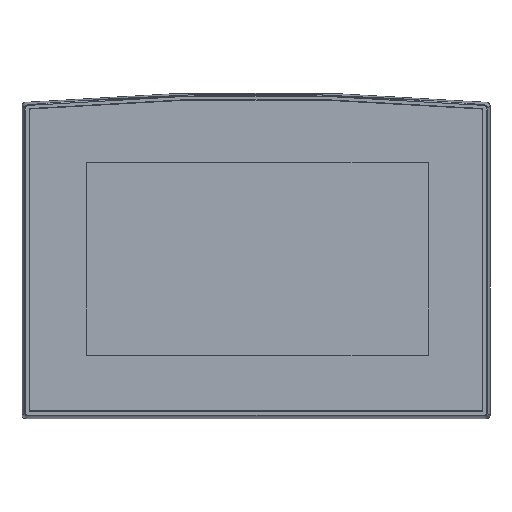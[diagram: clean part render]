
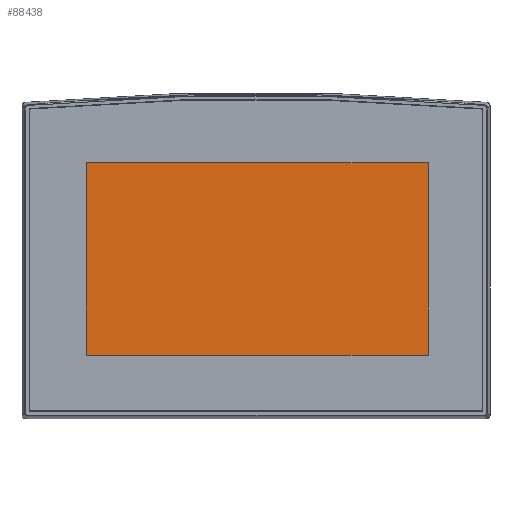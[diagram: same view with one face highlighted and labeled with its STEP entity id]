
A CAD part, top view. The second image highlights one B-rep face of the part: STEP entity #88438.
In plain terms, the highlighted planar face has unit normal (0, 0, 1).
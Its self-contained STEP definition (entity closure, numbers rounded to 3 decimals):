
#216 = ORIENTED_EDGE ( 'NONE', *, *, #33298, .F. ) ;
#10124 = CARTESIAN_POINT ( 'NONE',  ( 28.829, 114.787, 49.2 ) ) ;
#12513 = VERTEX_POINT ( 'NONE', #161276 ) ;
#24410 = FACE_OUTER_BOUND ( 'NONE', #110122, .T. ) ;
#33226 = VECTOR ( 'NONE', #154162, 1000. ) ;
#33298 = EDGE_CURVE ( 'NONE', #146506, #76855, #173021, .T. ) ;
#39920 = DIRECTION ( 'NONE',  ( 0., 0., -1. ) ) ;
#41892 = CARTESIAN_POINT ( 'NONE',  ( 28.829, 28.456, 49.2 ) ) ;
#46557 = CARTESIAN_POINT ( 'NONE',  ( 28.829, 114.787, 49.2 ) ) ;
#50106 = CARTESIAN_POINT ( 'NONE',  ( 182.262, 114.787, 49.2 ) ) ;
#54287 = EDGE_CURVE ( 'NONE', #76855, #176440, #69929, .T. ) ;
#54702 = ORIENTED_EDGE ( 'NONE', *, *, #121005, .F. ) ;
#69929 = LINE ( 'NONE', #167000, #33226 ) ;
#76855 = VERTEX_POINT ( 'NONE', #10124 ) ;
#81326 = ORIENTED_EDGE ( 'NONE', *, *, #111805, .F. ) ;
#84825 = CARTESIAN_POINT ( 'NONE',  ( 194.679, 15.558, 49.2 ) ) ;
#85690 = CARTESIAN_POINT ( 'NONE',  ( 182.262, 28.456, 49.2 ) ) ;
#88438 = ADVANCED_FACE ( 'NONE', ( #24410 ), #165429, .F. ) ;
#98556 = DIRECTION ( 'NONE',  ( -1., 0., 0. ) ) ;
#109740 = DIRECTION ( 'NONE',  ( -1., 0., 0. ) ) ;
#110122 = EDGE_LOOP ( 'NONE', ( #81326, #156058, #216, #54702 ) ) ;
#111805 = EDGE_CURVE ( 'NONE', #176440, #12513, #162279, .T. ) ;
#121005 = EDGE_CURVE ( 'NONE', #12513, #146506, #180274, .T. ) ;
#129972 = VECTOR ( 'NONE', #143328, 1000. ) ;
#142060 = AXIS2_PLACEMENT_3D ( 'NONE', #84825, #39920, #98556 ) ;
#143328 = DIRECTION ( 'NONE',  ( 0., -1., 0. ) ) ;
#146506 = VERTEX_POINT ( 'NONE', #168187 ) ;
#154162 = DIRECTION ( 'NONE',  ( 1., 0., 0. ) ) ;
#156058 = ORIENTED_EDGE ( 'NONE', *, *, #54287, .F. ) ;
#161276 = CARTESIAN_POINT ( 'NONE',  ( 182.262, 28.456, 49.2 ) ) ;
#162279 = LINE ( 'NONE', #85690, #129972 ) ;
#165429 = PLANE ( 'NONE',  #142060 ) ;
#167000 = CARTESIAN_POINT ( 'NONE',  ( 182.262, 114.787, 49.2 ) ) ;
#168187 = CARTESIAN_POINT ( 'NONE',  ( 28.829, 28.456, 49.2 ) ) ;
#169133 = VECTOR ( 'NONE', #171172, 1000. ) ;
#169262 = VECTOR ( 'NONE', #109740, 1000. ) ;
#171172 = DIRECTION ( 'NONE',  ( 0., 1., 0. ) ) ;
#173021 = LINE ( 'NONE', #46557, #169133 ) ;
#176440 = VERTEX_POINT ( 'NONE', #50106 ) ;
#180274 = LINE ( 'NONE', #41892, #169262 ) ;
